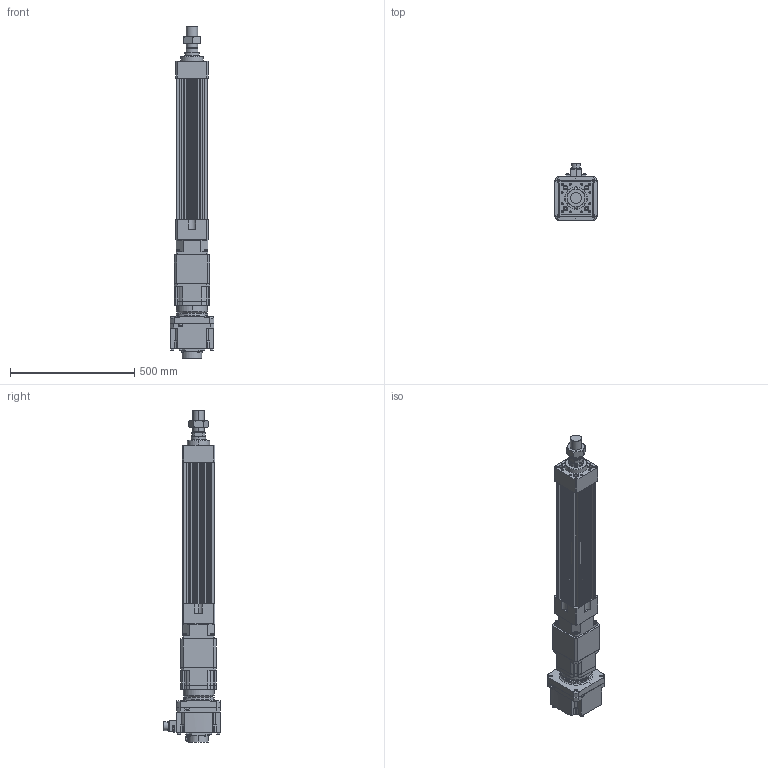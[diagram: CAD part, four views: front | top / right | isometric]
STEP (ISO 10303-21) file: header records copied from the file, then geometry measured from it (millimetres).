
FILE_DESCRIPTION (( 'STEP AP203' ), '1' );
FILE_NAME ('HES130FS(HS)-S350-W020G00-M.STEP', '2023-01-30T11:45:34', ( 'tms' ), ( '' ), 'SwSTEP 2.0', 'SolidWorks 2013', '' );
FILE_SCHEMA (( 'CONFIG_CONTROL_DESIGN' ));
Length unit declared in the file: millimetre
Products named in the file (9): P0403500801; HES130-S350-G142; HG-SR202; HES130FS(HS)-S350-W020G00-M; HES130 ROD M ST350; P1301500001; AB1421; AB142-003[HG-SR352]; M45X1.5P
Assembly tree (8 placements, depth 3):
  HES130FS(HS)-S350-W020G00-M
    HES130-S350-G142
    HES130 ROD M ST350
    M45X1.5P
    AB142-003[HG-SR352]
      AB1421
      P1301500001
      P0403500801
    HG-SR202
Bounding box: 176 x 228.85 x 1337.5 mm (x, y, z)
Volume: 11737791.3 mm3; surface area: 1498659.3 mm2
Topology: 4 solids, 22 shells, 1527 faces, 3928 edges, 2530 vertices
Faces by surface type: cylinder 683, plane 580, cone 182, bspline 76, torus 6
Entity records: 55214 total; most frequent: CARTESIAN_POINT 16756, DIRECTION 8052, ORIENTED_EDGE 7718, EDGE_CURVE 3881, AXIS2_PLACEMENT_3D 3043, VERTEX_POINT 2530, LINE 1966, VECTOR 1966
